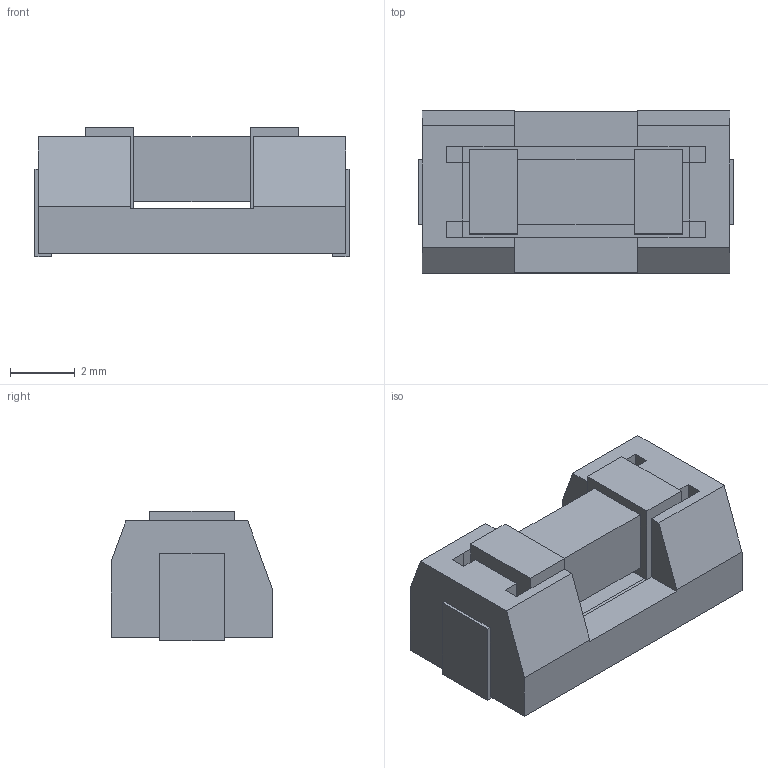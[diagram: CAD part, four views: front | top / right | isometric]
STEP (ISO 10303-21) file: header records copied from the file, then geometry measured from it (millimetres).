
FILE_DESCRIPTION(('FreeCAD Model'),'2;1');
FILE_NAME('Open CASCADE Shape Model','2021-06-29T04:35:13',('Author'),( ''),'Open CASCADE STEP processor 7.5','FreeCAD','Unknown');
FILE_SCHEMA(('AUTOMOTIVE_DESIGN { 1 0 10303 214 1 1 1 1 }'));
Length unit declared in the file: millimetre
Products named in the file (1): Group
Bounding box: 9.7 x 5 x 4 mm (x, y, z)
Volume: 128.6 mm3; surface area: 308.6 mm2
Topology: 2 solids, 2 shells, 68 faces, 174 edges, 112 vertices
Faces by surface type: plane 68
Entity records: 4630 total; most frequent: CARTESIAN_POINT 845, DIRECTION 518, LINE 380, VECTOR 380, ORIENTED_EDGE 348, PCURVE 348, DEFINITIONAL_REPRESENTATION 348, EDGE_CURVE 174
